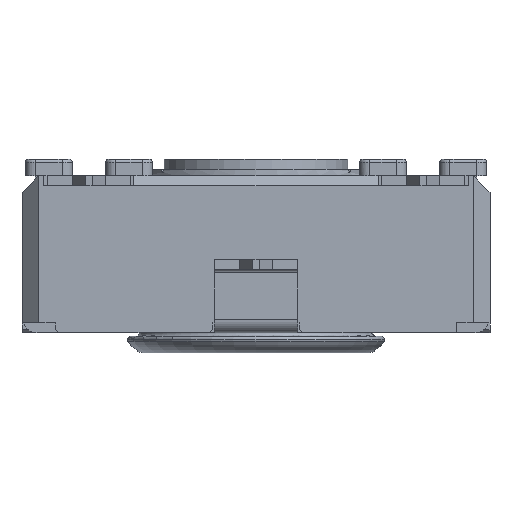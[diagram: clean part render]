
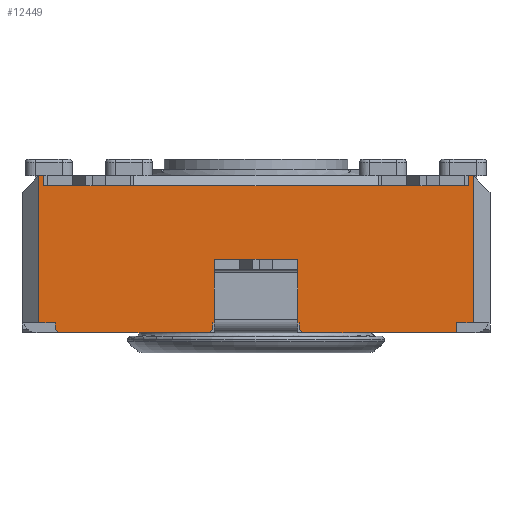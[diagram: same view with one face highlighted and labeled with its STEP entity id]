
A CAD part, front view. The second image highlights one B-rep face of the part: STEP entity #12449.
In plain terms, the highlighted planar face has unit normal (0, -1, 0).
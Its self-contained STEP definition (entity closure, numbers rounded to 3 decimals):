
#192=PLANE('',#13160);
#691=FACE_OUTER_BOUND('',#1356,.T.);
#1356=EDGE_LOOP('',(#8630,#8631,#8632,#8633,#8634,#8635,#8636,#8637,#8638,
#8639,#8640,#8641,#8642,#8643,#8644,#8645,#8646,#8647,#8648,#8649,#8650,
#8651,#8652,#8653,#8654,#8655,#8656));
#2031=LINE('',#17694,#3508);
#2044=LINE('',#17728,#3521);
#2049=LINE('',#17738,#3526);
#2127=LINE('',#17897,#3604);
#2152=LINE('',#17948,#3629);
#2178=LINE('',#18012,#3655);
#2179=LINE('',#18014,#3656);
#2180=LINE('',#18016,#3657);
#2181=LINE('',#18017,#3658);
#2182=LINE('',#18019,#3659);
#2183=LINE('',#18021,#3660);
#2184=LINE('',#18023,#3661);
#2185=LINE('',#18025,#3662);
#2186=LINE('',#18026,#3663);
#2187=LINE('',#18028,#3664);
#2188=LINE('',#18030,#3665);
#2189=LINE('',#18032,#3666);
#2190=LINE('',#18034,#3667);
#2191=LINE('',#18036,#3668);
#2192=LINE('',#18038,#3669);
#2193=LINE('',#18040,#3670);
#2194=LINE('',#18042,#3671);
#2195=LINE('',#18044,#3672);
#2196=LINE('',#18045,#3673);
#2197=LINE('',#18047,#3674);
#2198=LINE('',#18049,#3675);
#2199=LINE('',#18050,#3676);
#3508=VECTOR('',#14195,10.);
#3521=VECTOR('',#14234,10.);
#3526=VECTOR('',#14239,10.);
#3604=VECTOR('',#14341,10.);
#3629=VECTOR('',#14382,10.);
#3655=VECTOR('',#14430,10.);
#3656=VECTOR('',#14431,10.);
#3657=VECTOR('',#14432,10.);
#3658=VECTOR('',#14433,10.);
#3659=VECTOR('',#14434,10.);
#3660=VECTOR('',#14435,10.);
#3661=VECTOR('',#14436,10.);
#3662=VECTOR('',#14437,10.);
#3663=VECTOR('',#14438,10.);
#3664=VECTOR('',#14439,10.);
#3665=VECTOR('',#14440,10.);
#3666=VECTOR('',#14441,10.);
#3667=VECTOR('',#14442,10.);
#3668=VECTOR('',#14443,10.);
#3669=VECTOR('',#14444,10.);
#3670=VECTOR('',#14445,10.);
#3671=VECTOR('',#14446,10.);
#3672=VECTOR('',#14447,10.);
#3673=VECTOR('',#14448,10.);
#3674=VECTOR('',#14449,10.);
#3675=VECTOR('',#14450,10.);
#3676=VECTOR('',#14451,10.);
#5285=VERTEX_POINT('',#17672);
#5293=VERTEX_POINT('',#17693);
#5301=VERTEX_POINT('',#17727);
#5305=VERTEX_POINT('',#17735);
#5306=VERTEX_POINT('',#17737);
#5374=VERTEX_POINT('',#17894);
#5375=VERTEX_POINT('',#17896);
#5392=VERTEX_POINT('',#17945);
#5393=VERTEX_POINT('',#17947);
#5420=VERTEX_POINT('',#18011);
#5421=VERTEX_POINT('',#18013);
#5422=VERTEX_POINT('',#18015);
#5423=VERTEX_POINT('',#18018);
#5424=VERTEX_POINT('',#18020);
#5425=VERTEX_POINT('',#18022);
#5426=VERTEX_POINT('',#18024);
#5427=VERTEX_POINT('',#18027);
#5428=VERTEX_POINT('',#18029);
#5429=VERTEX_POINT('',#18031);
#5430=VERTEX_POINT('',#18033);
#5431=VERTEX_POINT('',#18035);
#5432=VERTEX_POINT('',#18037);
#5433=VERTEX_POINT('',#18039);
#5434=VERTEX_POINT('',#18041);
#5435=VERTEX_POINT('',#18043);
#5436=VERTEX_POINT('',#18046);
#5437=VERTEX_POINT('',#18048);
#6508=EDGE_CURVE('',#5285,#5293,#2031,.T.);
#6525=EDGE_CURVE('',#5301,#5285,#2044,.T.);
#6530=EDGE_CURVE('',#5306,#5305,#2049,.T.);
#6609=EDGE_CURVE('',#5375,#5374,#2127,.T.);
#6634=EDGE_CURVE('',#5393,#5392,#2152,.T.);
#6666=EDGE_CURVE('',#5374,#5420,#2178,.T.);
#6667=EDGE_CURVE('',#5420,#5421,#2179,.T.);
#6668=EDGE_CURVE('',#5421,#5422,#2180,.T.);
#6669=EDGE_CURVE('',#5306,#5422,#2181,.T.);
#6670=EDGE_CURVE('',#5305,#5423,#2182,.T.);
#6671=EDGE_CURVE('',#5424,#5423,#2183,.T.);
#6672=EDGE_CURVE('',#5424,#5425,#2184,.T.);
#6673=EDGE_CURVE('',#5426,#5425,#2185,.T.);
#6674=EDGE_CURVE('',#5301,#5426,#2186,.T.);
#6675=EDGE_CURVE('',#5293,#5427,#2187,.T.);
#6676=EDGE_CURVE('',#5427,#5428,#2188,.T.);
#6677=EDGE_CURVE('',#5429,#5428,#2189,.T.);
#6678=EDGE_CURVE('',#5429,#5430,#2190,.T.);
#6679=EDGE_CURVE('',#5430,#5431,#2191,.T.);
#6680=EDGE_CURVE('',#5431,#5432,#2192,.T.);
#6681=EDGE_CURVE('',#5433,#5432,#2193,.T.);
#6682=EDGE_CURVE('',#5433,#5434,#2194,.T.);
#6683=EDGE_CURVE('',#5434,#5435,#2195,.T.);
#6684=EDGE_CURVE('',#5435,#5393,#2196,.T.);
#6685=EDGE_CURVE('',#5392,#5436,#2197,.T.);
#6686=EDGE_CURVE('',#5437,#5436,#2198,.T.);
#6687=EDGE_CURVE('',#5437,#5375,#2199,.T.);
#8630=ORIENTED_EDGE('',*,*,#6609,.T.);
#8631=ORIENTED_EDGE('',*,*,#6666,.T.);
#8632=ORIENTED_EDGE('',*,*,#6667,.T.);
#8633=ORIENTED_EDGE('',*,*,#6668,.T.);
#8634=ORIENTED_EDGE('',*,*,#6669,.F.);
#8635=ORIENTED_EDGE('',*,*,#6530,.T.);
#8636=ORIENTED_EDGE('',*,*,#6670,.T.);
#8637=ORIENTED_EDGE('',*,*,#6671,.F.);
#8638=ORIENTED_EDGE('',*,*,#6672,.T.);
#8639=ORIENTED_EDGE('',*,*,#6673,.F.);
#8640=ORIENTED_EDGE('',*,*,#6674,.F.);
#8641=ORIENTED_EDGE('',*,*,#6525,.T.);
#8642=ORIENTED_EDGE('',*,*,#6508,.T.);
#8643=ORIENTED_EDGE('',*,*,#6675,.T.);
#8644=ORIENTED_EDGE('',*,*,#6676,.T.);
#8645=ORIENTED_EDGE('',*,*,#6677,.F.);
#8646=ORIENTED_EDGE('',*,*,#6678,.T.);
#8647=ORIENTED_EDGE('',*,*,#6679,.T.);
#8648=ORIENTED_EDGE('',*,*,#6680,.T.);
#8649=ORIENTED_EDGE('',*,*,#6681,.F.);
#8650=ORIENTED_EDGE('',*,*,#6682,.T.);
#8651=ORIENTED_EDGE('',*,*,#6683,.T.);
#8652=ORIENTED_EDGE('',*,*,#6684,.T.);
#8653=ORIENTED_EDGE('',*,*,#6634,.T.);
#8654=ORIENTED_EDGE('',*,*,#6685,.T.);
#8655=ORIENTED_EDGE('',*,*,#6686,.F.);
#8656=ORIENTED_EDGE('',*,*,#6687,.T.);
#12449=ADVANCED_FACE('',(#691),#192,.T.);
#13160=AXIS2_PLACEMENT_3D('',#18010,#14428,#14429);
#14195=DIRECTION('',(1.,0.,0.));
#14234=DIRECTION('',(1.,0.,0.));
#14239=DIRECTION('',(1.,0.,0.));
#14341=DIRECTION('',(-1.,0.,0.));
#14382=DIRECTION('',(-1.,0.,0.));
#14428=DIRECTION('center_axis',(0.,-1.,0.));
#14429=DIRECTION('ref_axis',(0.,0.,-1.));
#14430=DIRECTION('',(-1.,0.,0.));
#14431=DIRECTION('',(0.,0.,1.));
#14432=DIRECTION('',(-1.,0.,0.));
#14433=DIRECTION('',(0.,0.,1.));
#14434=DIRECTION('',(0.,0.,-1.));
#14435=DIRECTION('',(-0.707,0.,0.707));
#14436=DIRECTION('',(1.,0.,0.));
#14437=DIRECTION('',(-0.707,0.,-0.707));
#14438=DIRECTION('',(0.,0.,-1.));
#14439=DIRECTION('',(1.,0.,0.));
#14440=DIRECTION('',(0.,0.,-1.));
#14441=DIRECTION('',(-0.707,0.,0.707));
#14442=DIRECTION('',(1.,0.,0.));
#14443=DIRECTION('',(0.,0.,1.));
#14444=DIRECTION('',(1.,0.,0.));
#14445=DIRECTION('',(0.,0.,-1.));
#14446=DIRECTION('',(-1.,0.,0.));
#14447=DIRECTION('',(0.,0.,-1.));
#14448=DIRECTION('',(-1.,0.,0.));
#14449=DIRECTION('',(-1.,0.,0.));
#14450=DIRECTION('',(1.,0.,0.));
#14451=DIRECTION('',(-1.,0.,0.));
#17672=CARTESIAN_POINT('',(-8.717,-9.898,0.));
#17693=CARTESIAN_POINT('',(-6.217,-9.898,0.));
#17694=CARTESIAN_POINT('',(-14.467,-9.898,0.));
#17727=CARTESIAN_POINT('',(-8.767,-9.898,0.));
#17728=CARTESIAN_POINT('',(-14.467,-9.898,0.));
#17735=CARTESIAN_POINT('',(-13.467,-9.898,0.));
#17737=CARTESIAN_POINT('',(-13.967,-9.898,0.));
#17738=CARTESIAN_POINT('',(-7.245,-9.898,0.));
#17894=CARTESIAN_POINT('',(-13.717,-9.898,4.1));
#17896=CARTESIAN_POINT('',(-11.217,-9.898,4.1));
#17897=CARTESIAN_POINT('',(-6.467,-9.898,4.1));
#17945=CARTESIAN_POINT('',(-3.717,-9.898,4.1));
#17947=CARTESIAN_POINT('',(-1.217,-9.898,4.1));
#17948=CARTESIAN_POINT('',(-1.467,-9.898,4.1));
#18010=CARTESIAN_POINT('Origin',(-0.467,-9.898,0.));
#18011=CARTESIAN_POINT('',(-13.817,-9.898,4.1));
#18012=CARTESIAN_POINT('',(-3.944,-9.898,4.1));
#18013=CARTESIAN_POINT('',(-13.817,-9.898,4.4));
#18014=CARTESIAN_POINT('',(-13.817,-9.898,2.2));
#18015=CARTESIAN_POINT('',(-13.967,-9.898,4.4));
#18016=CARTESIAN_POINT('',(-14.467,-9.898,4.4));
#18017=CARTESIAN_POINT('',(-13.967,-9.898,0.));
#18018=CARTESIAN_POINT('',(-13.467,-9.898,-0.2));
#18019=CARTESIAN_POINT('',(-13.467,-9.898,-0.15));
#18020=CARTESIAN_POINT('',(-13.367,-9.898,-0.3));
#18021=CARTESIAN_POINT('',(-10.242,-9.898,-3.425));
#18022=CARTESIAN_POINT('',(-8.867,-9.898,-0.3));
#18023=CARTESIAN_POINT('',(-0.467,-9.898,-0.3));
#18024=CARTESIAN_POINT('',(-8.767,-9.898,-0.2));
#18025=CARTESIAN_POINT('',(-6.667,-9.898,1.9));
#18026=CARTESIAN_POINT('',(-8.767,-9.898,0.));
#18027=CARTESIAN_POINT('',(-6.167,-9.898,0.));
#18028=CARTESIAN_POINT('',(-14.467,-9.898,0.));
#18029=CARTESIAN_POINT('',(-6.167,-9.898,-0.2));
#18030=CARTESIAN_POINT('',(-6.167,-9.898,0.));
#18031=CARTESIAN_POINT('',(-6.067,-9.898,-0.3));
#18032=CARTESIAN_POINT('',(-4.767,-9.898,-1.6));
#18033=CARTESIAN_POINT('',(-1.467,-9.898,-0.3));
#18034=CARTESIAN_POINT('',(-0.467,-9.898,-0.3));
#18035=CARTESIAN_POINT('',(-1.467,-9.898,0.));
#18036=CARTESIAN_POINT('',(-1.467,-9.898,-0.15));
#18037=CARTESIAN_POINT('',(-0.967,-9.898,0.));
#18038=CARTESIAN_POINT('',(-0.646,-9.898,0.));
#18039=CARTESIAN_POINT('',(-0.967,-9.898,4.4));
#18040=CARTESIAN_POINT('',(-0.967,-9.898,0.));
#18041=CARTESIAN_POINT('',(-1.117,-9.898,4.4));
#18042=CARTESIAN_POINT('',(-14.467,-9.898,4.4));
#18043=CARTESIAN_POINT('',(-1.117,-9.898,4.1));
#18044=CARTESIAN_POINT('',(-1.117,-9.898,2.2));
#18045=CARTESIAN_POINT('',(-1.862,-9.898,4.1));
#18046=CARTESIAN_POINT('',(-3.817,-9.898,4.1));
#18047=CARTESIAN_POINT('',(-1.862,-9.898,4.1));
#18048=CARTESIAN_POINT('',(-11.117,-9.898,4.1));
#18049=CARTESIAN_POINT('',(-3.967,-9.898,4.1));
#18050=CARTESIAN_POINT('',(-3.944,-9.898,4.1));
